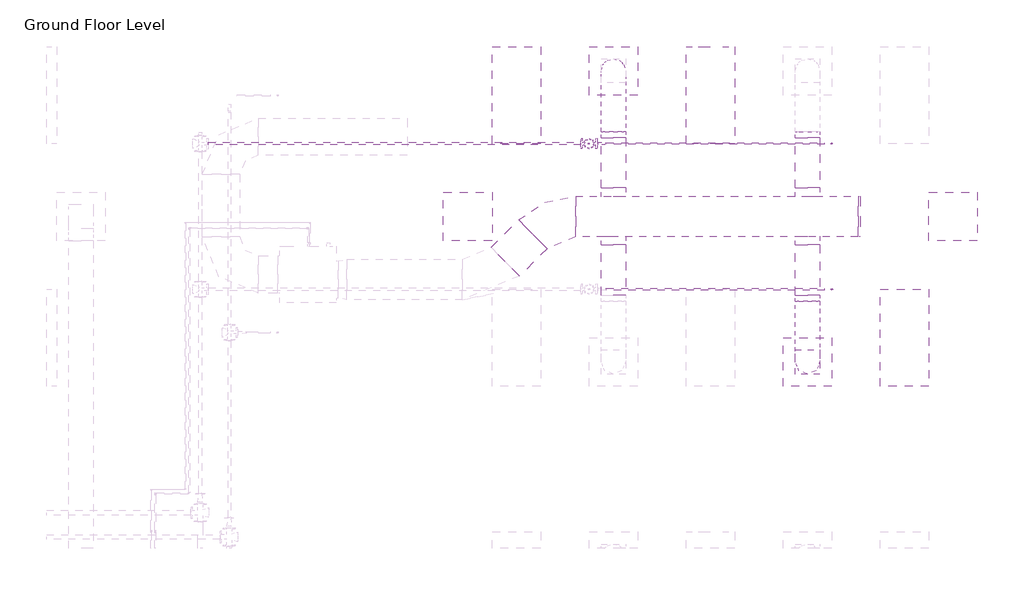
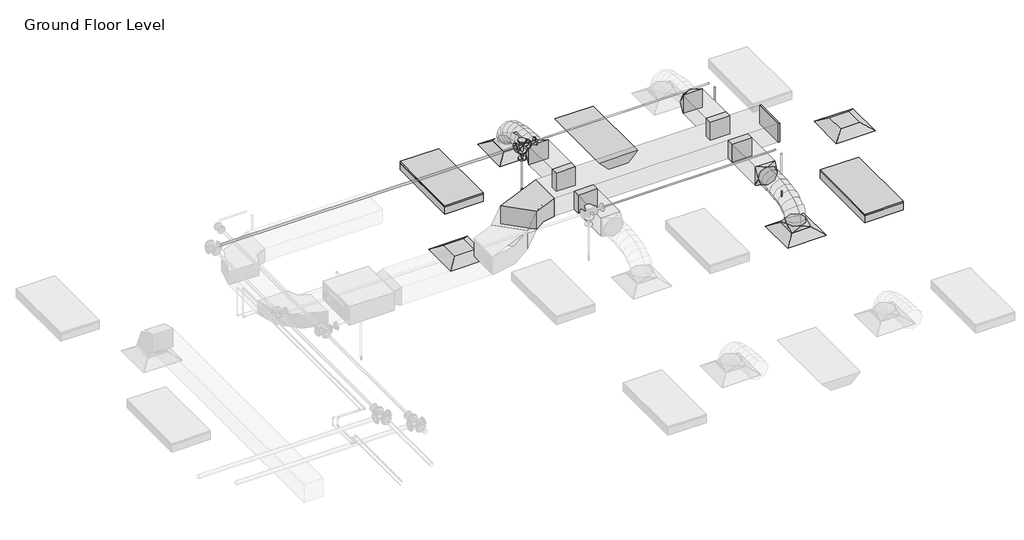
# One storey, part 73 of 74: 10 duct fittings, 8 duct segments, 6 pipe segments, 4 air terminals, 3 fire suppression terminals, 3 light fixtures, 3 pipe fittings.
"""IFC4 building model written with IfcOpenShell, lengths in millimetres."""

from ifc_helpers import new_model, si_unit, point, frame, frame_2d, origin, place, context, project, spatial, polyline, circle_curve, ellipse_curve, trimmed, segment, composite_curve, outline, extrude, transform, mapped, element, save
from ifc_brep_helpers import plane_surface, cylinder_surface, advanced_brep
from components import m_return_diffuser_600_x_600_face_300_x_300_connection_ff221211, m_rectangular_elbow_radius_1_5_w_acc56c25, m_rectangular_endcap_standard_72d4d00d, m_rectangular_takeoff_standard_cb0ccb98, m_rectangular_takeoff_standard_2be5eba1, m_rectangular_to_round_transition_angle_45_degree_641efff0, m_sprinkler_dry_pendent_hosted_15_mm_dry_pendent_9bda8e11, m_emergency_recessed_lighting_fixture_600x1200_277_5b10b25d, m_troffer_light_parabolic_rectangular1_0600x1200mm_4_lamp_86473d4a, m_reducer_flanged_cs_class_150_standard_ccf252ad, m_tee_round_base_flanged_cs_class_150_standard_7e5987a1

model = new_model("IFC4")

# Units and contexts
model_context = context("Model", 3, world=origin())
ifc_project = project(units=[si_unit("LENGTHUNIT", "METRE", prefix="MILLI")], contexts=[model_context])

# Site, building, storey
site = spatial("IfcSite", under=ifc_project)
building = spatial("IfcBuilding", under=site)
storey = spatial("IfcBuildingStorey", under=building, Name="Ground Floor Level", Elevation=900.0)

# Air terminals
placement = place(None, origin())
m_return_diffuser_600_x_600_face_300_x_300_connection_shape = m_return_diffuser_600_x_600_face_300_x_300_connection_ff221211(model_context)
element("IfcAirTerminal", 1, ObjectType="M_Return Diffuser : 600 x 600 Face 300 x 300 Connection", at=placement, inside=storey, context=model_context, shape_type="MappedRepresentation", body=[
    mapped(m_return_diffuser_600_x_600_face_300_x_300_connection_shape, transform((8942.7672395, 18735.2153534, 3650.0), x_axis=(1.0, 0.0, 0.0), y_axis=(0.0, 1.0, 0.0), z_axis=(0.0, 0.0, 1.0))),
])
element("IfcAirTerminal", 2, ObjectType="M_Return Diffuser : 600 x 600 Face 300 x 300 Connection", at=placement, inside=storey, context=model_context, shape_type="MappedRepresentation", body=[
    mapped(m_return_diffuser_600_x_600_face_300_x_300_connection_shape, transform((14942.7672395, 18735.2153534, 3650.0), x_axis=(1.0, 0.0, 0.0), y_axis=(0.0, 1.0, 0.0), z_axis=(0.0, 0.0, 1.0))),
])
element("IfcAirTerminal", 3, ObjectType="M_Supply Diffuser : 600 x 600 Face 300 x 300 Connection", at=placement, inside=storey, context=model_context, shape_type="MappedRepresentation", body=[
    mapped(m_return_diffuser_600_x_600_face_300_x_300_connection_shape, transform((10742.7672395, 20535.2153534, 3650.0), x_axis=(1.0, 0.0, 0.0), y_axis=(0.0, 1.0, 0.0), z_axis=(0.0, 0.0, 1.0))),
])
element("IfcAirTerminal", 4, ObjectType="M_Supply Diffuser : 600 x 600 Face 300 x 300 Connection", at=placement, inside=storey, context=model_context, shape_type="MappedRepresentation", body=[
    mapped(m_return_diffuser_600_x_600_face_300_x_300_connection_shape, transform((13142.7672395, 16935.2153534, 3650.0), x_axis=(1.0, 0.0, 0.0), y_axis=(0.0, 1.0, 0.0), z_axis=(0.0, 0.0, 1.0))),
])

# Duct fittings
m_rectangular_elbow_radius_1_5_w_shape = m_rectangular_elbow_radius_1_5_w_acc56c25(model_context)
element("IfcDuctFitting", 5, ObjectType="M_Rectangular Elbow - Radius : 1.5 W", at=placement, inside=storey, context=model_context, shape_type="MappedRepresentation", body=[
    mapped(m_rectangular_elbow_radius_1_5_w_shape, transform((9966.7301365, 18735.2153534, 4100.0), x_axis=(-1.0, 0.0, 0.0), y_axis=(0.0, -0.9999999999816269, 6.061864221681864e-06), z_axis=(0.0, 6.061864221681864e-06, 0.9999999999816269))),
])
m_rectangular_endcap_standard_shape = m_rectangular_endcap_standard_72d4d00d(model_context)
element("IfcDuctFitting", 6, ObjectType="M_Rectangular Endcap : Standard", at=placement, inside=storey, context=model_context, shape_type="MappedRepresentation", body=[
    mapped(m_rectangular_endcap_standard_shape, transform((13766.7301365, 18735.2153534, 4100.0), x_axis=(1.0, 0.0, 0.0), y_axis=(0.0, 1.0, 0.0), z_axis=(0.0, 0.0, 1.0))),
])
m_rectangular_takeoff_standard_shape = m_rectangular_takeoff_standard_cb0ccb98(model_context)
element("IfcDuctFitting", 7, ObjectType="M_Rectangular Takeoff : Standard", at=placement, inside=storey, context=model_context, shape_type="MappedRepresentation", body=[
    mapped(m_rectangular_takeoff_standard_shape, transform((10742.7672395, 18985.2153534, 4100.0), x_axis=(0.0, 1.0, 0.0), y_axis=(1.0, 0.0, 0.0), z_axis=(0.0, 0.0, -1.0))),
])
element("IfcDuctFitting", 8, ObjectType="M_Rectangular Takeoff : Standard", at=placement, inside=storey, context=model_context, shape_type="MappedRepresentation", body=[
    mapped(m_rectangular_takeoff_standard_shape, transform((13142.7672395, 18985.2153534, 4100.0), x_axis=(0.0, 1.0, 0.0), y_axis=(1.0, 0.0, 0.0), z_axis=(0.0, 0.0, -1.0))),
])
m_rectangular_takeoff_standard_2_shape = m_rectangular_takeoff_standard_2be5eba1(model_context)
element("IfcDuctFitting", 9, ObjectType="M_Rectangular Takeoff : Standard", at=placement, inside=storey, context=model_context, shape_type="MappedRepresentation", body=[
    mapped(m_rectangular_takeoff_standard_2_shape, transform((13142.7672395, 18485.2153534, 4100.0), x_axis=(0.0, -1.0, 0.0), y_axis=(-1.0, 0.0, 0.0), z_axis=(0.0, 0.0, -1.0))),
])
element("IfcDuctFitting", 10, ObjectType="M_Rectangular Takeoff : Standard", at=placement, inside=storey, context=model_context, shape_type="MappedRepresentation", body=[
    mapped(m_rectangular_takeoff_standard_2_shape, transform((10742.7672395, 18485.2153534, 4100.0), x_axis=(0.0, -1.0, 0.0), y_axis=(-1.0, 0.0, 0.0), z_axis=(0.0, 0.0, -1.0))),
])
m_rectangular_to_round_transition_angle_45_degree_shape = m_rectangular_to_round_transition_angle_45_degree_641efff0(model_context)
element("IfcDuctFitting", 11, ObjectType="M_Rectangular to Round Transition - Angle : 45 Degree", at=placement, inside=storey, context=model_context, shape_type="MappedRepresentation", body=[
    mapped(m_rectangular_to_round_transition_angle_45_degree_shape, transform((10742.7672395, 19707.8794221, 4100.0), x_axis=(0.0, 1.0, 0.0), y_axis=(-1.0, 0.0, 0.0), z_axis=(0.0, 0.0, 1.0))),
])
element("IfcDuctFitting", 12, ObjectType="M_Rectangular to Round Transition - Angle : 45 Degree", at=placement, inside=storey, context=model_context, shape_type="MappedRepresentation", body=[
    mapped(m_rectangular_to_round_transition_angle_45_degree_shape, transform((13142.7672395, 19707.8794221, 4100.0), x_axis=(0.0, 1.0, 0.0), y_axis=(-1.0, 0.0, 0.0), z_axis=(0.0, 0.0, 1.0))),
])
element("IfcDuctFitting", 13, ObjectType="M_Rectangular to Round Transition - Angle : 45 Degree", at=placement, inside=storey, context=model_context, shape_type="MappedRepresentation", body=[
    mapped(m_rectangular_to_round_transition_angle_45_degree_shape, transform((13142.7672395, 16935.2153534, 3751.6), x_axis=(0.0, 0.0, 1.0), y_axis=(-1.0, 0.0, 0.0), z_axis=(0.0, -1.0, 0.0))),
])
element("IfcDuctFitting", 14, ObjectType="M_Rectangular to Round Transition - Angle : 45 Degree", at=placement, inside=storey, context=model_context, shape_type="MappedRepresentation", body=[
    mapped(m_rectangular_to_round_transition_angle_45_degree_shape, transform((13142.7672395, 17762.5512847, 4100.0), x_axis=(0.0, -1.0, 0.0), y_axis=(1.0, 0.0, 0.0), z_axis=(0.0, 0.0, 1.0))),
])

# Duct segments
element("IfcDuctSegment", 15, ObjectType="Flex - Round", at=placement, inside=storey, context=model_context, shape_type="AdvancedBrep", body=[
    advanced_brep(
    [(10892.7672395, 20535.2153534, 3826.6), (10742.7672395, 20385.2153534, 3826.6), (10592.7672395, 20535.2153534, 3826.6), (10742.7672395, 20685.2153534, 3826.6), (10892.7672395, 20535.2153534, 3857.9377114), (10742.7672395, 20385.2153534, 3832.2944892), (10592.7672395, 20535.2153534, 3857.9377114), (10742.7672395, 20685.2153534, 3883.5809337), (10892.7672395, 20518.1994208, 3906.2505728), (10742.7672395, 20384.4614419, 3834.435049), (10592.7672395, 20518.1994208, 3906.2505728), (10742.7672395, 20651.9373998, 3978.0660967), (10892.7672395, 20471.0155405, 3968.7113131), (10742.7672395, 20366.8096412, 3857.8020236), (10592.7672395, 20471.0155405, 3968.7113131), (10742.7672395, 20575.2214397, 4079.6206026), (10892.7672395, 20399.4595883, 4016.0700639), (10742.7672395, 20330.5255327, 3881.8163788), (10592.7672395, 20399.4595883, 4016.0700639), (10742.7672395, 20468.3936439, 4150.3237489), (10892.7672395, 20309.3274403, 4050.4146682), (10742.7672395, 20265.7666771, 3906.4925606), (10592.7672395, 20309.3274403, 4050.4146682), (10742.7672395, 20352.8882035, 4194.3367758), (10892.7672395, 20206.4149725, 4073.8329691), (10742.7672395, 20179.8540485, 3926.0424542), (10592.7672395, 20206.4149725, 4073.8329691), (10742.7672395, 20232.9758965, 4221.6234841), (10892.7672395, 20096.5180607, 4088.4128097), (10742.7672395, 20081.3671584, 3939.1085462), (10592.7672395, 20096.5180607, 4088.4128097), (10742.7672395, 20111.6689631, 4237.7170733), (10892.7672395, 19985.4325811, 4096.242033), (10742.7672395, 19977.9272529, 3946.398915), (10592.7672395, 19985.4325811, 4096.242033), (10742.7672395, 19992.9379093, 4246.085151), (10892.7672395, 19878.9544096, 4099.4084821), (10742.7672395, 19876.2629165, 3949.4222102), (10592.7672395, 19878.9544096, 4099.4084821), (10742.7672395, 19881.6459027, 4249.394754), (10892.7672395, 19782.8794221, 4100.0), (10742.7672395, 19783.8029299, 4249.9971571), (10592.7672395, 19782.8794221, 4100.0), (10742.7672395, 19781.9559143, 3950.0028429)],
    [
        (0, 1, circle_curve(frame((10742.7672395, 20535.2153534, 3826.6), z_axis=(0.0, 0.0, -1.0), x_axis=(1.0, 0.0, 0.0)), 150.0)),
        (1, 2, circle_curve(frame((10742.7672395, 20535.2153534, 3826.6), z_axis=(0.0, 0.0, -1.0), x_axis=(1.0, 0.0, 0.0)), 150.0)),
        (2, 3, circle_curve(frame((10742.7672395, 20535.2153534, 3826.6), z_axis=(0.0, 0.0, -1.0), x_axis=(1.0, 0.0, 0.0)), 150.0)),
        (3, 0, circle_curve(frame((10742.7672395, 20535.2153534, 3826.6), z_axis=(0.0, 0.0, -1.0), x_axis=(1.0, 0.0, 0.0)), 150.0)),
        (0, 4),
        (4, 5, ellipse_curve(frame((10742.7672395, 20535.2153534, 3857.9377114), z_axis=(0.0, 0.16851014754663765, -0.9856999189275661), x_axis=(0.0, -0.985699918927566, -0.1685101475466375)), 152.176131, 150.0)),
        (5, 1),
        (5, 6, ellipse_curve(frame((10742.7672395, 20535.2153534, 3857.9377114), z_axis=(0.0, 0.16851014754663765, -0.9856999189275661), x_axis=(0.0, -0.985699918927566, -0.1685101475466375)), 152.176131, 150.0)),
        (6, 2),
        (6, 7, ellipse_curve(frame((10742.7672395, 20535.2153534, 3857.9377114), z_axis=(0.0, 0.16851014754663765, -0.9856999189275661), x_axis=(0.0, -0.985699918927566, -0.1685101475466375)), 152.176131, 150.0)),
        (7, 3),
        (7, 4, ellipse_curve(frame((10742.7672395, 20535.2153534, 3857.9377114), z_axis=(0.0, 0.16851014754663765, -0.9856999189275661), x_axis=(0.0, -0.985699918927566, -0.1685101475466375)), 152.176131, 150.0)),
        (4, 8),
        (8, 9, ellipse_curve(frame((10742.7672395, 20518.1994208, 3906.2505728), z_axis=(0.0, 0.4730922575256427, -0.881012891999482), x_axis=(0.0, -0.8810128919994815, -0.4730922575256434)), 151.8002519, 150.0)),
        (9, 5),
        (9, 10, ellipse_curve(frame((10742.7672395, 20518.1994208, 3906.2505728), z_axis=(0.0, 0.4730922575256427, -0.881012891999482), x_axis=(0.0, -0.8810128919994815, -0.4730922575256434)), 151.8002519, 150.0)),
        (10, 6),
        (10, 11, ellipse_curve(frame((10742.7672395, 20518.1994208, 3906.2505728), z_axis=(0.0, 0.4730922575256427, -0.881012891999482), x_axis=(0.0, -0.8810128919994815, -0.4730922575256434)), 151.8002519, 150.0)),
        (11, 7),
        (11, 8, ellipse_curve(frame((10742.7672395, 20518.1994208, 3906.2505728), z_axis=(0.0, 0.4730922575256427, -0.881012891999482), x_axis=(0.0, -0.8810128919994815, -0.4730922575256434)), 151.8002519, 150.0)),
        (8, 12),
        (12, 13, ellipse_curve(frame((10742.7672395, 20471.0155405, 3968.7113131), z_axis=(0.0, 0.7287877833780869, -0.68473963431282), x_axis=(0.0, -0.6847396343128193, -0.7287877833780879)), 152.1832446, 150.0)),
        (13, 9),
        (13, 14, ellipse_curve(frame((10742.7672395, 20471.0155405, 3968.7113131), z_axis=(0.0, 0.7287877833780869, -0.68473963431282), x_axis=(0.0, -0.6847396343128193, -0.7287877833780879)), 152.1832446, 150.0)),
        (14, 10),
        (14, 15, ellipse_curve(frame((10742.7672395, 20471.0155405, 3968.7113131), z_axis=(0.0, 0.7287877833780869, -0.68473963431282), x_axis=(0.0, -0.6847396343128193, -0.7287877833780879)), 152.1832446, 150.0)),
        (15, 11),
        (15, 12, ellipse_curve(frame((10742.7672395, 20471.0155405, 3968.7113131), z_axis=(0.0, 0.7287877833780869, -0.68473963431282), x_axis=(0.0, -0.6847396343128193, -0.7287877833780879)), 152.1832446, 150.0)),
        (12, 16),
        (16, 17, ellipse_curve(frame((10742.7672395, 20399.4595883, 4016.0700639), z_axis=(0.0, 0.8895859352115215, -0.45676784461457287), x_axis=(0.0, -0.45676784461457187, -0.889585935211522)), 150.91705, 150.0)),
        (17, 13),
        (17, 18, ellipse_curve(frame((10742.7672395, 20399.4595883, 4016.0700639), z_axis=(0.0, 0.8895859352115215, -0.45676784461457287), x_axis=(0.0, -0.45676784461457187, -0.889585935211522)), 150.91705, 150.0)),
        (18, 14),
        (18, 19, ellipse_curve(frame((10742.7672395, 20399.4595883, 4016.0700639), z_axis=(0.0, 0.8895859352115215, -0.45676784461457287), x_axis=(0.0, -0.45676784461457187, -0.889585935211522)), 150.91705, 150.0)),
        (19, 15),
        (19, 16, ellipse_curve(frame((10742.7672395, 20399.4595883, 4016.0700639), z_axis=(0.0, 0.8895859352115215, -0.45676784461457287), x_axis=(0.0, -0.45676784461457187, -0.889585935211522)), 150.91705, 150.0)),
        (16, 20),
        (20, 21, ellipse_curve(frame((10742.7672395, 20309.3274403, 4050.4146682), z_axis=(0.0, 0.9571203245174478, -0.2896906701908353), x_axis=(0.0, -0.28969067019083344, -0.9571203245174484)), 150.369921, 150.0)),
        (21, 17),
        (21, 22, ellipse_curve(frame((10742.7672395, 20309.3274403, 4050.4146682), z_axis=(0.0, 0.9571203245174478, -0.2896906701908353), x_axis=(0.0, -0.28969067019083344, -0.9571203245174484)), 150.369921, 150.0)),
        (22, 18),
        (22, 23, ellipse_curve(frame((10742.7672395, 20309.3274403, 4050.4146682), z_axis=(0.0, 0.9571203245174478, -0.2896906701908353), x_axis=(0.0, -0.28969067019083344, -0.9571203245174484)), 150.369921, 150.0)),
        (23, 19),
        (23, 20, ellipse_curve(frame((10742.7672395, 20309.3274403, 4050.4146682), z_axis=(0.0, 0.9571203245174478, -0.2896906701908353), x_axis=(0.0, -0.28969067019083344, -0.9571203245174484)), 150.369921, 150.0)),
        (20, 24),
        (24, 25, ellipse_curve(frame((10742.7672395, 20206.4149725, 4073.8329691), z_axis=(0.0, 0.9842313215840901, -0.17688613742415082), x_axis=(0.0, -0.17688613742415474, -0.9842313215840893)), 150.1583131, 150.0)),
        (25, 21),
        (25, 26, ellipse_curve(frame((10742.7672395, 20206.4149725, 4073.8329691), z_axis=(0.0, 0.9842313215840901, -0.17688613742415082), x_axis=(0.0, -0.17688613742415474, -0.9842313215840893)), 150.1583131, 150.0)),
        (26, 22),
        (26, 27, ellipse_curve(frame((10742.7672395, 20206.4149725, 4073.8329691), z_axis=(0.0, 0.9842313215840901, -0.17688613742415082), x_axis=(0.0, -0.17688613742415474, -0.9842313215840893)), 150.1583131, 150.0)),
        (27, 23),
        (27, 24, ellipse_curve(frame((10742.7672395, 20206.4149725, 4073.8329691), z_axis=(0.0, 0.9842313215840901, -0.17688613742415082), x_axis=(0.0, -0.17688613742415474, -0.9842313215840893)), 150.1583131, 150.0)),
        (24, 28),
        (28, 29, ellipse_curve(frame((10742.7672395, 20096.5180607, 4088.4128097), z_axis=(0.0, 0.9948906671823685, -0.10095821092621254), x_axis=(0.0, -0.10095821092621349, -0.9948906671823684)), 150.0710264, 150.0)),
        (29, 25),
        (29, 30, ellipse_curve(frame((10742.7672395, 20096.5180607, 4088.4128097), z_axis=(0.0, 0.9948906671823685, -0.10095821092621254), x_axis=(0.0, -0.10095821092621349, -0.9948906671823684)), 150.0710264, 150.0)),
        (30, 26),
        (30, 31, ellipse_curve(frame((10742.7672395, 20096.5180607, 4088.4128097), z_axis=(0.0, 0.9948906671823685, -0.10095821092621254), x_axis=(0.0, -0.10095821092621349, -0.9948906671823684)), 150.0710264, 150.0)),
        (31, 27),
        (31, 28, ellipse_curve(frame((10742.7672395, 20096.5180607, 4088.4128097), z_axis=(0.0, 0.9948906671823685, -0.10095821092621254), x_axis=(0.0, -0.10095821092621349, -0.9948906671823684)), 150.0710264, 150.0)),
        (28, 32),
        (32, 33, ellipse_curve(frame((10742.7672395, 19985.4325811, 4096.242033), z_axis=(0.0, 0.9987479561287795, -0.05002519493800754), x_axis=(0.0, -0.05002519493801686, -0.9987479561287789)), 150.0309634, 150.0)),
        (33, 29),
        (33, 34, ellipse_curve(frame((10742.7672395, 19985.4325811, 4096.242033), z_axis=(0.0, 0.9987479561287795, -0.05002519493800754), x_axis=(0.0, -0.05002519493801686, -0.9987479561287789)), 150.0309634, 150.0)),
        (34, 30),
        (34, 35, ellipse_curve(frame((10742.7672395, 19985.4325811, 4096.242033), z_axis=(0.0, 0.9987479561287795, -0.05002519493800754), x_axis=(0.0, -0.05002519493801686, -0.9987479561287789)), 150.0309634, 150.0)),
        (35, 31),
        (35, 32, ellipse_curve(frame((10742.7672395, 19985.4325811, 4096.242033), z_axis=(0.0, 0.9987479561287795, -0.05002519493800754), x_axis=(0.0, -0.05002519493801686, -0.9987479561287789)), 150.0309634, 150.0)),
        (32, 36),
        (36, 37, ellipse_curve(frame((10742.7672395, 19878.9544096, 4099.4084821), z_axis=(0.0, 0.9998390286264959, -0.017942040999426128), x_axis=(0.0, -0.017942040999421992, -0.999839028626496)), 150.0104193, 150.0)),
        (37, 33),
        (37, 38, ellipse_curve(frame((10742.7672395, 19878.9544096, 4099.4084821), z_axis=(0.0, 0.9998390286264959, -0.017942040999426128), x_axis=(0.0, -0.017942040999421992, -0.999839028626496)), 150.0104193, 150.0)),
        (38, 34),
        (38, 39, ellipse_curve(frame((10742.7672395, 19878.9544096, 4099.4084821), z_axis=(0.0, 0.9998390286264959, -0.017942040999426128), x_axis=(0.0, -0.017942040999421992, -0.999839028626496)), 150.0104193, 150.0)),
        (39, 35),
        (39, 36, ellipse_curve(frame((10742.7672395, 19878.9544096, 4099.4084821), z_axis=(0.0, 0.9998390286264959, -0.017942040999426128), x_axis=(0.0, -0.017942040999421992, -0.999839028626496)), 150.0104193, 150.0)),
        (40, 41, circle_curve(frame((10742.7672395, 19782.8794221, 4100.0), z_axis=(0.0, -0.9999810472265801, 0.006156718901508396), x_axis=(1.0, 0.0, 0.0)), 150.0)),
        (41, 42, circle_curve(frame((10742.7672395, 19782.8794221, 4100.0), z_axis=(0.0, -0.9999810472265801, 0.006156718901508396), x_axis=(1.0, 0.0, 0.0)), 150.0)),
        (42, 43, circle_curve(frame((10742.7672395, 19782.8794221, 4100.0), z_axis=(0.0, -0.9999810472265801, 0.006156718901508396), x_axis=(1.0, 0.0, 0.0)), 150.0)),
        (43, 40, circle_curve(frame((10742.7672395, 19782.8794221, 4100.0), z_axis=(0.0, -0.9999810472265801, 0.006156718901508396), x_axis=(1.0, 0.0, 0.0)), 150.0)),
        (36, 40),
        (43, 37),
        (42, 38),
        (41, 39),
    ],
    [
        plane_surface(frame((10742.7672395, 20385.2153534, 3826.6), z_axis=(0.0, 0.0, -1.0), x_axis=(1.0, 0.0, 0.0))),
        cylinder_surface(frame((10742.7672395, 20535.2153534, 3826.6), z_axis=(0.0, 0.0, -1.0), x_axis=(1.0, 0.0, 0.0)), 150.0),
        cylinder_surface(frame((10742.7672395, 20535.2153534, 3857.9377114), z_axis=(0.0, 0.33220087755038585, -0.9432086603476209), x_axis=(1.0, 0.0, 0.0)), 150.0),
        cylinder_surface(frame((10742.7672395, 20518.1994208, 3906.2505728), z_axis=(0.0, 0.6027625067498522, -0.7979206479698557), x_axis=(1.0, 0.0, 0.0)), 150.0),
        cylinder_surface(frame((10742.7672395, 20471.0155405, 3968.7113131), z_axis=(0.0, 0.833902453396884, -0.5519118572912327), x_axis=(1.0, 0.0, 0.0)), 150.0),
        cylinder_surface(frame((10742.7672395, 20399.4595883, 4016.0700639), z_axis=(0.0, 0.9344582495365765, -0.3560727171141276), x_axis=(1.0, 0.0, 0.0)), 150.0),
        cylinder_surface(frame((10742.7672395, 20309.3274403, 4050.4146682), z_axis=(0.0, 0.9750732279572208, -0.2218833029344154), x_axis=(1.0, 0.0, 0.0)), 150.0),
        cylinder_surface(frame((10742.7672395, 20206.4149725, 4073.8329691), z_axis=(0.0, 0.991314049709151, -0.13151598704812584), x_axis=(1.0, 0.0, 0.0)), 150.0),
        cylinder_surface(frame((10742.7672395, 20096.5180607, 4088.4128097), z_axis=(0.0, 0.9975255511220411, -0.07030487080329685), x_axis=(1.0, 0.0, 0.0)), 150.0),
        cylinder_surface(frame((10742.7672395, 19985.4325811, 4096.242033), z_axis=(0.0, 0.9995581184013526, -0.02972487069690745), x_axis=(1.0, 0.0, 0.0)), 150.0),
        plane_surface(frame((10742.7672395, 19781.9559143, 3950.0028429), z_axis=(0.0, -0.9999810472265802, 0.006156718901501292), x_axis=(1.0, 0.0, 0.0))),
        cylinder_surface(frame((10742.7672395, 19878.9544096, 4099.4084821), z_axis=(0.0, 0.9999810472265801, -0.006156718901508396), x_axis=(1.0, 0.0, 0.0)), 150.0),
    ],
    [
        (0, [[1, 2, 3, 4]]),
        (1, [[-1, 5, 6, 7]]),
        (1, [[-2, -7, 8, 9]]),
        (1, [[-3, -9, 10, 11]]),
        (1, [[-4, -11, 12, -5]]),
        (2, [[-6, 13, 14, 15]]),
        (2, [[-8, -15, 16, 17]]),
        (2, [[-10, -17, 18, 19]]),
        (2, [[-12, -19, 20, -13]]),
        (3, [[-14, 21, 22, 23]]),
        (3, [[-16, -23, 24, 25]]),
        (3, [[-18, -25, 26, 27]]),
        (3, [[-20, -27, 28, -21]]),
        (4, [[-22, 29, 30, 31]]),
        (4, [[-24, -31, 32, 33]]),
        (4, [[-26, -33, 34, 35]]),
        (4, [[-28, -35, 36, -29]]),
        (5, [[-30, 37, 38, 39]]),
        (5, [[-32, -39, 40, 41]]),
        (5, [[-34, -41, 42, 43]]),
        (5, [[-36, -43, 44, -37]]),
        (6, [[-38, 45, 46, 47]]),
        (6, [[-40, -47, 48, 49]]),
        (6, [[-42, -49, 50, 51]]),
        (6, [[-44, -51, 52, -45]]),
        (7, [[-46, 53, 54, 55]]),
        (7, [[-48, -55, 56, 57]]),
        (7, [[-50, -57, 58, 59]]),
        (7, [[-52, -59, 60, -53]]),
        (8, [[-54, 61, 62, 63]]),
        (8, [[-56, -63, 64, 65]]),
        (8, [[-58, -65, 66, 67]]),
        (8, [[-60, -67, 68, -61]]),
        (9, [[-62, 69, 70, 71]]),
        (9, [[-64, -71, 72, 73]]),
        (9, [[-66, -73, 74, 75]]),
        (9, [[-68, -75, 76, -69]]),
        (10, [[77, 78, 79, 80]]),
        (11, [[-70, 81, -80, 82]]),
        (11, [[-72, -82, -79, 83]]),
        (11, [[-74, -83, -78, 84]]),
        (11, [[-76, -84, -77, -81]]),
    ],
),
])
element("IfcDuctSegment", 16, ObjectType="Flex - Round", at=placement, inside=storey, context=model_context, shape_type="AdvancedBrep", body=[
    advanced_brep(
    [(13292.7672395, 16935.2153534, 3826.6), (13142.7672395, 16785.2153534, 3826.6), (12992.7672395, 16935.2153534, 3826.6), (13142.7672395, 17085.2153534, 3826.6), (13292.7672395, 16935.2153534, 3857.9377114), (13142.7672395, 16785.2153534, 3883.5809337), (12992.7672395, 16935.2153534, 3857.9377114), (13142.7672395, 17085.2153534, 3832.2944892), (13292.7672395, 16952.2312859, 3906.2505728), (13142.7672395, 16818.493307, 3978.0660967), (12992.7672395, 16952.2312859, 3906.2505728), (13142.7672395, 17085.9692649, 3834.435049), (13292.7672395, 16999.4151663, 3968.7113131), (13142.7672395, 16895.209267, 4079.6206026), (12992.7672395, 16999.4151663, 3968.7113131), (13142.7672395, 17103.6210655, 3857.8020236), (13292.7672395, 17070.9711184, 4016.0700639), (13142.7672395, 17002.0370628, 4150.3237489), (12992.7672395, 17070.9711184, 4016.0700639), (13142.7672395, 17139.9051741, 3881.8163788), (13292.7672395, 17161.1032664, 4050.4146682), (13142.7672395, 17117.5425033, 4194.3367758), (12992.7672395, 17161.1032664, 4050.4146682), (13142.7672395, 17204.6640296, 3906.4925606), (13292.7672395, 17264.0157343, 4073.8329691), (13142.7672395, 17237.4548103, 4221.6234841), (12992.7672395, 17264.0157343, 4073.8329691), (13142.7672395, 17290.5766583, 3926.0424542), (13292.7672395, 17373.912646, 4088.4128097), (13142.7672395, 17358.7617437, 4237.7170733), (12992.7672395, 17373.912646, 4088.4128097), (13142.7672395, 17389.0635483, 3939.1085462), (13292.7672395, 17484.9981256, 4096.242033), (13142.7672395, 17477.4927975, 4246.085151), (12992.7672395, 17484.9981256, 4096.242033), (13142.7672395, 17492.5034538, 3946.398915), (13292.7672395, 17591.4762972, 4099.4084821), (13142.7672395, 17588.7848041, 4249.394754), (12992.7672395, 17591.4762972, 4099.4084821), (13142.7672395, 17594.1677903, 3949.4222102), (13292.7672395, 17687.5512847, 4100.0), (13142.7672395, 17688.4747925, 3950.0028429), (12992.7672395, 17687.5512847, 4100.0), (13142.7672395, 17686.6277768, 4249.9971571)],
    [
        (0, 1, circle_curve(frame((13142.7672395, 16935.2153534, 3826.6), z_axis=(0.0, 0.0, -1.0), x_axis=(1.0, 0.0, 0.0)), 150.0)),
        (1, 2, circle_curve(frame((13142.7672395, 16935.2153534, 3826.6), z_axis=(0.0, 0.0, -1.0), x_axis=(1.0, 0.0, 0.0)), 150.0)),
        (2, 3, circle_curve(frame((13142.7672395, 16935.2153534, 3826.6), z_axis=(0.0, 0.0, -1.0), x_axis=(1.0, 0.0, 0.0)), 150.0)),
        (3, 0, circle_curve(frame((13142.7672395, 16935.2153534, 3826.6), z_axis=(0.0, 0.0, -1.0), x_axis=(1.0, 0.0, 0.0)), 150.0)),
        (0, 4),
        (4, 5, ellipse_curve(frame((13142.7672395, 16935.2153534, 3857.9377114), z_axis=(0.0, -0.16851014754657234, -0.9856999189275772), x_axis=(0.0, 0.9856999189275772, -0.1685101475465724)), 152.176131, 150.0)),
        (5, 1),
        (5, 6, ellipse_curve(frame((13142.7672395, 16935.2153534, 3857.9377114), z_axis=(0.0, -0.16851014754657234, -0.9856999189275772), x_axis=(0.0, 0.9856999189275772, -0.1685101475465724)), 152.176131, 150.0)),
        (6, 2),
        (6, 7, ellipse_curve(frame((13142.7672395, 16935.2153534, 3857.9377114), z_axis=(0.0, -0.16851014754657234, -0.9856999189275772), x_axis=(0.0, 0.9856999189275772, -0.1685101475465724)), 152.176131, 150.0)),
        (7, 3),
        (7, 4, ellipse_curve(frame((13142.7672395, 16935.2153534, 3857.9377114), z_axis=(0.0, -0.16851014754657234, -0.9856999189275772), x_axis=(0.0, 0.9856999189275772, -0.1685101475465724)), 152.176131, 150.0)),
        (4, 8),
        (8, 9, ellipse_curve(frame((13142.7672395, 16952.2312859, 3906.2505728), z_axis=(0.0, -0.4730922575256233, -0.8810128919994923), x_axis=(0.0, 0.8810128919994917, -0.47309225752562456)), 151.8002519, 150.0)),
        (9, 5),
        (9, 10, ellipse_curve(frame((13142.7672395, 16952.2312859, 3906.2505728), z_axis=(0.0, -0.4730922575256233, -0.8810128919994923), x_axis=(0.0, 0.8810128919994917, -0.47309225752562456)), 151.8002519, 150.0)),
        (10, 6),
        (10, 11, ellipse_curve(frame((13142.7672395, 16952.2312859, 3906.2505728), z_axis=(0.0, -0.4730922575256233, -0.8810128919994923), x_axis=(0.0, 0.8810128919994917, -0.47309225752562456)), 151.8002519, 150.0)),
        (11, 7),
        (11, 8, ellipse_curve(frame((13142.7672395, 16952.2312859, 3906.2505728), z_axis=(0.0, -0.4730922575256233, -0.8810128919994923), x_axis=(0.0, 0.8810128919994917, -0.47309225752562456)), 151.8002519, 150.0)),
        (8, 12),
        (12, 13, ellipse_curve(frame((13142.7672395, 16999.4151663, 3968.7113131), z_axis=(0.0, -0.7287877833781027, -0.684739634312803), x_axis=(0.0, 0.6847396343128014, -0.7287877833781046)), 152.1832446, 150.0)),
        (13, 9),
        (13, 14, ellipse_curve(frame((13142.7672395, 16999.4151663, 3968.7113131), z_axis=(0.0, -0.7287877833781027, -0.684739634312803), x_axis=(0.0, 0.6847396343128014, -0.7287877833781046)), 152.1832446, 150.0)),
        (14, 10),
        (14, 15, ellipse_curve(frame((13142.7672395, 16999.4151663, 3968.7113131), z_axis=(0.0, -0.7287877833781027, -0.684739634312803), x_axis=(0.0, 0.6847396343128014, -0.7287877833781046)), 152.1832446, 150.0)),
        (15, 11),
        (15, 12, ellipse_curve(frame((13142.7672395, 16999.4151663, 3968.7113131), z_axis=(0.0, -0.7287877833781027, -0.684739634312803), x_axis=(0.0, 0.6847396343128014, -0.7287877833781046)), 152.1832446, 150.0)),
        (12, 16),
        (16, 17, ellipse_curve(frame((13142.7672395, 17070.9711184, 4016.0700639), z_axis=(0.0, -0.8895859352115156, -0.45676784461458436), x_axis=(0.0, 0.45676784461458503, -0.8895859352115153)), 150.91705, 150.0)),
        (17, 13),
        (17, 18, ellipse_curve(frame((13142.7672395, 17070.9711184, 4016.0700639), z_axis=(0.0, -0.8895859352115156, -0.45676784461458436), x_axis=(0.0, 0.45676784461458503, -0.8895859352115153)), 150.91705, 150.0)),
        (18, 14),
        (18, 19, ellipse_curve(frame((13142.7672395, 17070.9711184, 4016.0700639), z_axis=(0.0, -0.8895859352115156, -0.45676784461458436), x_axis=(0.0, 0.45676784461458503, -0.8895859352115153)), 150.91705, 150.0)),
        (19, 15),
        (19, 16, ellipse_curve(frame((13142.7672395, 17070.9711184, 4016.0700639), z_axis=(0.0, -0.8895859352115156, -0.45676784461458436), x_axis=(0.0, 0.45676784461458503, -0.8895859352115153)), 150.91705, 150.0)),
        (16, 20),
        (20, 21, ellipse_curve(frame((13142.7672395, 17161.1032664, 4050.4146682), z_axis=(0.0, -0.9571203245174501, -0.2896906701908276), x_axis=(0.0, 0.28969067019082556, -0.9571203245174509)), 150.369921, 150.0)),
        (21, 17),
        (21, 22, ellipse_curve(frame((13142.7672395, 17161.1032664, 4050.4146682), z_axis=(0.0, -0.9571203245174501, -0.2896906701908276), x_axis=(0.0, 0.28969067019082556, -0.9571203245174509)), 150.369921, 150.0)),
        (22, 18),
        (22, 23, ellipse_curve(frame((13142.7672395, 17161.1032664, 4050.4146682), z_axis=(0.0, -0.9571203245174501, -0.2896906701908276), x_axis=(0.0, 0.28969067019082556, -0.9571203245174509)), 150.369921, 150.0)),
        (23, 19),
        (23, 20, ellipse_curve(frame((13142.7672395, 17161.1032664, 4050.4146682), z_axis=(0.0, -0.9571203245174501, -0.2896906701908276), x_axis=(0.0, 0.28969067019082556, -0.9571203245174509)), 150.369921, 150.0)),
        (20, 24),
        (24, 25, ellipse_curve(frame((13142.7672395, 17264.0157343, 4073.8329691), z_axis=(0.0, -0.9842313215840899, -0.176886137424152), x_axis=(0.0, 0.17688613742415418, -0.9842313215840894)), 150.1583131, 150.0)),
        (25, 21),
        (25, 26, ellipse_curve(frame((13142.7672395, 17264.0157343, 4073.8329691), z_axis=(0.0, -0.9842313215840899, -0.176886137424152), x_axis=(0.0, 0.17688613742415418, -0.9842313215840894)), 150.1583131, 150.0)),
        (26, 22),
        (26, 27, ellipse_curve(frame((13142.7672395, 17264.0157343, 4073.8329691), z_axis=(0.0, -0.9842313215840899, -0.176886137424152), x_axis=(0.0, 0.17688613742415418, -0.9842313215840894)), 150.1583131, 150.0)),
        (27, 23),
        (27, 24, ellipse_curve(frame((13142.7672395, 17264.0157343, 4073.8329691), z_axis=(0.0, -0.9842313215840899, -0.176886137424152), x_axis=(0.0, 0.17688613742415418, -0.9842313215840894)), 150.1583131, 150.0)),
        (24, 28),
        (28, 29, ellipse_curve(frame((13142.7672395, 17373.912646, 4088.4128097), z_axis=(0.0, -0.9948906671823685, -0.10095821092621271), x_axis=(0.0, 0.10095821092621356, -0.9948906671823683)), 150.0710264, 150.0)),
        (29, 25),
        (29, 30, ellipse_curve(frame((13142.7672395, 17373.912646, 4088.4128097), z_axis=(0.0, -0.9948906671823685, -0.10095821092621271), x_axis=(0.0, 0.10095821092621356, -0.9948906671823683)), 150.0710264, 150.0)),
        (30, 26),
        (30, 31, ellipse_curve(frame((13142.7672395, 17373.912646, 4088.4128097), z_axis=(0.0, -0.9948906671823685, -0.10095821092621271), x_axis=(0.0, 0.10095821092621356, -0.9948906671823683)), 150.0710264, 150.0)),
        (31, 27),
        (31, 28, ellipse_curve(frame((13142.7672395, 17373.912646, 4088.4128097), z_axis=(0.0, -0.9948906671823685, -0.10095821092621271), x_axis=(0.0, 0.10095821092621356, -0.9948906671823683)), 150.0710264, 150.0)),
        (28, 32),
        (32, 33, ellipse_curve(frame((13142.7672395, 17484.9981256, 4096.242033), z_axis=(0.0, -0.9987479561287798, -0.050025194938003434), x_axis=(0.0, 0.05002519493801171, -0.9987479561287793)), 150.0309634, 150.0)),
        (33, 29),
        (33, 34, ellipse_curve(frame((13142.7672395, 17484.9981256, 4096.242033), z_axis=(0.0, -0.9987479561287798, -0.050025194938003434), x_axis=(0.0, 0.05002519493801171, -0.9987479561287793)), 150.0309634, 150.0)),
        (34, 30),
        (34, 35, ellipse_curve(frame((13142.7672395, 17484.9981256, 4096.242033), z_axis=(0.0, -0.9987479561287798, -0.050025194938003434), x_axis=(0.0, 0.05002519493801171, -0.9987479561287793)), 150.0309634, 150.0)),
        (35, 31),
        (35, 32, ellipse_curve(frame((13142.7672395, 17484.9981256, 4096.242033), z_axis=(0.0, -0.9987479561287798, -0.050025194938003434), x_axis=(0.0, 0.05002519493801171, -0.9987479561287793)), 150.0309634, 150.0)),
        (32, 36),
        (36, 37, ellipse_curve(frame((13142.7672395, 17591.4762972, 4099.4084821), z_axis=(0.0, -0.9998390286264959, -0.01794204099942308), x_axis=(0.0, 0.017942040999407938, -0.9998390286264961)), 150.0104193, 150.0)),
        (37, 33),
        (37, 38, ellipse_curve(frame((13142.7672395, 17591.4762972, 4099.4084821), z_axis=(0.0, -0.9998390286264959, -0.01794204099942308), x_axis=(0.0, 0.017942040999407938, -0.9998390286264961)), 150.0104193, 150.0)),
        (38, 34),
        (38, 39, ellipse_curve(frame((13142.7672395, 17591.4762972, 4099.4084821), z_axis=(0.0, -0.9998390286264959, -0.01794204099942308), x_axis=(0.0, 0.017942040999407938, -0.9998390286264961)), 150.0104193, 150.0)),
        (39, 35),
        (39, 36, ellipse_curve(frame((13142.7672395, 17591.4762972, 4099.4084821), z_axis=(0.0, -0.9998390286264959, -0.01794204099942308), x_axis=(0.0, 0.017942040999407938, -0.9998390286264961)), 150.0104193, 150.0)),
        (40, 41, circle_curve(frame((13142.7672395, 17687.5512847, 4100.0), z_axis=(0.0, 0.9999810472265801, 0.006156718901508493), x_axis=(1.0, 0.0, 0.0)), 150.0)),
        (41, 42, circle_curve(frame((13142.7672395, 17687.5512847, 4100.0), z_axis=(0.0, 0.9999810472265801, 0.006156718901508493), x_axis=(1.0, 0.0, 0.0)), 150.0)),
        (42, 43, circle_curve(frame((13142.7672395, 17687.5512847, 4100.0), z_axis=(0.0, 0.9999810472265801, 0.006156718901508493), x_axis=(1.0, 0.0, 0.0)), 150.0)),
        (43, 40, circle_curve(frame((13142.7672395, 17687.5512847, 4100.0), z_axis=(0.0, 0.9999810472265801, 0.006156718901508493), x_axis=(1.0, 0.0, 0.0)), 150.0)),
        (36, 40),
        (43, 37),
        (42, 38),
        (41, 39),
    ],
    [
        plane_surface(frame((13142.7672395, 16785.2153534, 3826.6), z_axis=(0.0, 0.0, -1.0), x_axis=(1.0, 0.0, 0.0))),
        cylinder_surface(frame((13142.7672395, 16935.2153534, 3826.6), z_axis=(0.0, 0.0, -1.0), x_axis=(1.0, 0.0, 0.0)), 150.0),
        cylinder_surface(frame((13142.7672395, 16935.2153534, 3857.9377114), z_axis=(0.0, -0.3322008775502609, -0.9432086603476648), x_axis=(1.0, 0.0, 0.0)), 150.0),
        cylinder_surface(frame((13142.7672395, 16952.2312859, 3906.2505728), z_axis=(0.0, -0.6027625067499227, -0.7979206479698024), x_axis=(1.0, 0.0, 0.0)), 150.0),
        cylinder_surface(frame((13142.7672395, 16999.4151663, 3968.7113131), z_axis=(0.0, -0.8339024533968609, -0.5519118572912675), x_axis=(1.0, 0.0, 0.0)), 150.0),
        cylinder_surface(frame((13142.7672395, 17070.9711184, 4016.0700639), z_axis=(0.0, -0.9344582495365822, -0.35607271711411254), x_axis=(1.0, 0.0, 0.0)), 150.0),
        cylinder_surface(frame((13142.7672395, 17161.1032664, 4050.4146682), z_axis=(0.0, -0.9750732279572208, -0.22188330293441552), x_axis=(1.0, 0.0, 0.0)), 150.0),
        cylinder_surface(frame((13142.7672395, 17264.0157343, 4073.8329691), z_axis=(0.0, -0.9913140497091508, -0.13151598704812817), x_axis=(1.0, 0.0, 0.0)), 150.0),
        cylinder_surface(frame((13142.7672395, 17373.912646, 4088.4128097), z_axis=(0.0, -0.9975255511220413, -0.07030487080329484), x_axis=(1.0, 0.0, 0.0)), 150.0),
        cylinder_surface(frame((13142.7672395, 17484.9981256, 4096.242033), z_axis=(0.0, -0.9995581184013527, -0.029724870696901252), x_axis=(1.0, 0.0, 0.0)), 150.0),
        plane_surface(frame((13142.7672395, 17686.6277768, 4249.9971571), z_axis=(0.0, 0.9999810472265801, 0.0061567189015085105), x_axis=(1.0, 0.0, 0.0))),
        cylinder_surface(frame((13142.7672395, 17591.4762972, 4099.4084821), z_axis=(0.0, -0.9999810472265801, -0.006156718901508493), x_axis=(1.0, 0.0, 0.0)), 150.0),
    ],
    [
        (0, [[1, 2, 3, 4]]),
        (1, [[-1, 5, 6, 7]]),
        (1, [[-2, -7, 8, 9]]),
        (1, [[-3, -9, 10, 11]]),
        (1, [[-4, -11, 12, -5]]),
        (2, [[-6, 13, 14, 15]]),
        (2, [[-8, -15, 16, 17]]),
        (2, [[-10, -17, 18, 19]]),
        (2, [[-12, -19, 20, -13]]),
        (3, [[-14, 21, 22, 23]]),
        (3, [[-16, -23, 24, 25]]),
        (3, [[-18, -25, 26, 27]]),
        (3, [[-20, -27, 28, -21]]),
        (4, [[-22, 29, 30, 31]]),
        (4, [[-24, -31, 32, 33]]),
        (4, [[-26, -33, 34, 35]]),
        (4, [[-28, -35, 36, -29]]),
        (5, [[-30, 37, 38, 39]]),
        (5, [[-32, -39, 40, 41]]),
        (5, [[-34, -41, 42, 43]]),
        (5, [[-36, -43, 44, -37]]),
        (6, [[-38, 45, 46, 47]]),
        (6, [[-40, -47, 48, 49]]),
        (6, [[-42, -49, 50, 51]]),
        (6, [[-44, -51, 52, -45]]),
        (7, [[-46, 53, 54, 55]]),
        (7, [[-48, -55, 56, 57]]),
        (7, [[-50, -57, 58, 59]]),
        (7, [[-52, -59, 60, -53]]),
        (8, [[-54, 61, 62, 63]]),
        (8, [[-56, -63, 64, 65]]),
        (8, [[-58, -65, 66, 67]]),
        (8, [[-60, -67, 68, -61]]),
        (9, [[-62, 69, 70, 71]]),
        (9, [[-64, -71, 72, 73]]),
        (9, [[-66, -73, 74, 75]]),
        (9, [[-68, -75, 76, -69]]),
        (10, [[77, 78, 79, 80]]),
        (11, [[-70, 81, -80, 82]]),
        (11, [[-72, -82, -79, 83]]),
        (11, [[-74, -83, -78, 84]]),
        (11, [[-76, -84, -77, -81]]),
    ],
),
])
element("IfcDuctSegment", 17, ObjectType="Radius Elbows / Taps", at=placement, inside=storey, context=model_context, shape_type="SweptSolid", body=[
    extrude(outline(polyline([(9584.1393452, 17999.0711715), (9230.5859546, 18352.6245621), (9570.2835271, 18692.3221346), (9923.8369177, 18338.768744), (9584.1393452, 17999.0711715)])), frame((0.0, 0.0, 3950.0033908), z_axis=(0.0, 0.0, 1.0), x_axis=(1.0, 0.0, 0.0)), (0.0, 0.0, 1.0), 300.0),
])
element("IfcDuctSegment", 18, ObjectType="Radius Elbows / Taps", at=placement, inside=storey, context=model_context, shape_type="SweptSolid", body=[
    extrude(outline(polyline([(10277.3903083, 18485.2153534), (10277.3903083, 18985.2153534), (13766.7301365, 18985.2153534), (13766.7301365, 18485.2153534), (10277.3903083, 18485.2153534)])), frame((0.0, 0.0, 3950.0), z_axis=(0.0, 0.0, 1.0), x_axis=(1.0, 0.0, 0.0)), (0.0, 0.0, 1.0), 300.0),
])
element("IfcDuctSegment", 19, ObjectType="Radius Elbows / Taps", at=placement, inside=storey, context=model_context, shape_type="SweptSolid", body=[
    extrude(outline(polyline([(10892.7672395, 19086.8153534), (10592.7672395, 19086.8153534), (10592.7672395, 19707.8794221), (10892.7672395, 19707.8794221), (10892.7672395, 19086.8153534)])), frame((0.0, 0.0, 3950.0), z_axis=(0.0, 0.0, 1.0), x_axis=(1.0, 0.0, 0.0)), (0.0, 0.0, 1.0), 300.0),
])
element("IfcDuctSegment", 20, ObjectType="Radius Elbows / Taps", at=placement, inside=storey, context=model_context, shape_type="SweptSolid", body=[
    extrude(outline(polyline([(13292.7672395, 19086.8153534), (12992.7672395, 19086.8153534), (12992.7672395, 19707.8794221), (13292.7672395, 19707.8794221), (13292.7672395, 19086.8153534)])), frame((0.0, 0.0, 3950.0), z_axis=(0.0, 0.0, 1.0), x_axis=(1.0, 0.0, 0.0)), (0.0, 0.0, 1.0), 300.0),
])
element("IfcDuctSegment", 21, ObjectType="Radius Elbows / Taps", at=placement, inside=storey, context=model_context, shape_type="SweptSolid", body=[
    extrude(outline(polyline([(12992.7672395, 18383.6153534), (13292.7672395, 18383.6153534), (13292.7672395, 17762.5512847), (12992.7672395, 17762.5512847), (12992.7672395, 18383.6153534)])), frame((0.0, 0.0, 3950.0), z_axis=(0.0, 0.0, 1.0), x_axis=(1.0, 0.0, 0.0)), (0.0, 0.0, 1.0), 300.0),
])
element("IfcDuctSegment", 22, ObjectType="Radius Elbows / Taps", at=placement, inside=storey, context=model_context, shape_type="SweptSolid", body=[
    extrude(outline(polyline([(10592.7672395, 18383.6153534), (10892.7672395, 18383.6153534), (10892.7672395, 17762.5512847), (10592.7672395, 17762.5512847), (10592.7672395, 18383.6153534)])), frame((0.0, 0.0, 3950.0), z_axis=(0.0, 0.0, 1.0), x_axis=(1.0, 0.0, 0.0)), (0.0, 0.0, 1.0), 300.0),
])

# Fire suppression terminals
m_sprinkler_dry_pendent_hosted_15_mm_dry_pendent_shape = m_sprinkler_dry_pendent_hosted_15_mm_dry_pendent_9bda8e11(model_context)
element("IfcFireSuppressionTerminal", 23, ObjectType="M_Sprinkler - Dry - Pendent - Hosted : 15 mm Dry Pendent", at=placement, inside=storey, context=model_context, shape_type="MappedRepresentation", body=[
    mapped(m_sprinkler_dry_pendent_hosted_15_mm_dry_pendent_shape, transform((10442.7672395, 19635.2153534, 3650.0), x_axis=(1.0, 0.0, 0.0), y_axis=(0.0, -1.0, 0.0), z_axis=(0.0, 0.0, -1.0))),
])
element("IfcFireSuppressionTerminal", 24, ObjectType="M_Sprinkler - Dry - Pendent - Hosted : 15 mm Dry Pendent", at=placement, inside=storey, context=model_context, shape_type="MappedRepresentation", body=[
    mapped(m_sprinkler_dry_pendent_hosted_15_mm_dry_pendent_shape, transform((13442.7672395, 19635.2153534, 3650.0), x_axis=(1.0, 0.0, 0.0), y_axis=(0.0, -1.0, 0.0), z_axis=(0.0, 0.0, -1.0))),
])
element("IfcFireSuppressionTerminal", 25, ObjectType="M_Sprinkler - Dry - Pendent - Hosted : 15 mm Dry Pendent", at=placement, inside=storey, context=model_context, shape_type="MappedRepresentation", body=[
    mapped(m_sprinkler_dry_pendent_hosted_15_mm_dry_pendent_shape, transform((13442.7672395, 17835.2153534, 3650.0), x_axis=(1.0, 0.0, 0.0), y_axis=(0.0, -1.0, 0.0), z_axis=(0.0, 0.0, -1.0))),
])

# Light fixtures
m_emergency_recessed_lighting_fixture_600x1200_277_shape = m_emergency_recessed_lighting_fixture_600x1200_277_5b10b25d(model_context)
element("IfcLightFixture", 26, ObjectType="M_Emergency Recessed Lighting Fixture : 600x1200 - 277", at=placement, inside=storey, context=model_context, shape_type="MappedRepresentation", body=[
    mapped(m_emergency_recessed_lighting_fixture_600x1200_277_shape, transform((11642.7672395, 19635.2153534, 3650.0), x_axis=(0.0, 1.0, 0.0), y_axis=(-1.0, 0.0, 0.0), z_axis=(0.0, 0.0, 1.0))),
])
m_troffer_light_parabolic_rectangular1_0600x1200mm_4_lamp_shape = m_troffer_light_parabolic_rectangular1_0600x1200mm_4_lamp_86473d4a(model_context)
element("IfcLightFixture", 27, ObjectType="M_Troffer Light - Parabolic Rectangular1 : 0600x1200mm(4 Lamp) - 277V 2", at=placement, inside=storey, context=model_context, shape_type="MappedRepresentation", body=[
    mapped(m_troffer_light_parabolic_rectangular1_0600x1200mm_4_lamp_shape, transform((9483.3013074, 20253.918855, 3650.0), x_axis=(0.0, 1.0, 0.0), y_axis=(-1.0, 0.0, 0.0), z_axis=(0.0, 0.0, 1.0))),
])
element("IfcLightFixture", 28, ObjectType="M_Troffer Light - Parabolic Rectangular1 : 0600x1200mm(4 Lamp) - 277V 2", at=placement, inside=storey, context=model_context, shape_type="MappedRepresentation", body=[
    mapped(m_troffer_light_parabolic_rectangular1_0600x1200mm_4_lamp_shape, transform((14283.3013074, 17253.918855, 3650.0), x_axis=(0.0, 1.0, 0.0), y_axis=(-1.0, 0.0, 0.0), z_axis=(0.0, 0.0, 1.0))),
])

# Pipe fittings
m_reducer_flanged_cs_class_150_standard_shape = m_reducer_flanged_cs_class_150_standard_ccf252ad(model_context)
element("IfcPipeFitting", 29, ObjectType="M_Reducer - Flanged - CS - Class 150 : Standard", at=placement, inside=storey, context=model_context, shape_type="MappedRepresentation", body=[
    mapped(m_reducer_flanged_cs_class_150_standard_shape, transform((10543.4758332, 19635.2153534, 4360.0), x_axis=(1.0, 0.0, 0.0), y_axis=(0.0, 0.0, 1.0), z_axis=(0.0, -1.0, 0.0))),
])
element("IfcPipeFitting", 30, ObjectType="M_Reducer - Flanged - CS - Class 150 : Standard", at=placement, inside=storey, context=model_context, shape_type="MappedRepresentation", body=[
    mapped(m_reducer_flanged_cs_class_150_standard_shape, transform((10442.7672395, 19635.2153534, 4259.2914062), x_axis=(0.0, 0.0, -1.0), y_axis=(-1.0, 0.0, 0.0), z_axis=(0.0, 1.0, 0.0))),
])
m_tee_round_base_flanged_cs_class_150_standard_shape = m_tee_round_base_flanged_cs_class_150_standard_7e5987a1(model_context)
element("IfcPipeFitting", 31, ObjectType="M_Tee Round Base - Flanged - CS - Class 150 : Standard", at=placement, inside=storey, context=model_context, shape_type="MappedRepresentation", body=[
    mapped(m_tee_round_base_flanged_cs_class_150_standard_shape, transform((10442.7672395, 19635.2153534, 4360.0), x_axis=(1.0, 0.0, 0.0), y_axis=(0.0, 0.0, 1.0), z_axis=(0.0, -1.0, 0.0))),
])

# Pipe segments
element("IfcPipeSegment", 32, ObjectType="Steel flanged", at=placement, inside=storey, context=model_context, shape_type="SweptSolid", body=[
    extrude(outline(composite_curve([segment(trimmed(circle_curve(frame_2d((13442.7672395, 19635.2153534)), 10.668), [point((13432.0992395, 19635.2153534))], [point((13442.7672395, 19645.8833534))], False, "CARTESIAN"), True, "CONTINUOUS"), segment(trimmed(circle_curve(frame_2d((13442.7672395, 19635.2153534)), 10.668), [point((13442.7672395, 19645.8833534))], [point((13453.4352395, 19635.2153534))], False, "CARTESIAN"), True, "CONTINUOUS"), segment(trimmed(circle_curve(frame_2d((13442.7672395, 19635.2153534)), 10.668), [point((13453.4352395, 19635.2153534))], [point((13442.7672395, 19624.5473534))], False, "CARTESIAN"), True, "CONTINUOUS"), segment(trimmed(circle_curve(frame_2d((13442.7672395, 19635.2153534)), 10.668), [point((13442.7672395, 19624.5473534))], [point((13432.0992395, 19635.2153534))], False, "CARTESIAN"), True, "CONTINUOUS")], self_intersect=False)), frame((0.0, 0.0, 3650.0), z_axis=(0.0, 0.0, 1.0), x_axis=(1.0, 0.0, 0.0)), (0.0, 0.0, 1.0), 616.9914062),
])
element("IfcPipeSegment", 33, ObjectType="Steel flanged", at=placement, inside=storey, context=model_context, shape_type="SweptSolid", body=[
    extrude(outline(composite_curve([segment(trimmed(circle_curve(frame_2d((13442.7672395, 17835.2153534)), 10.668), [point((13432.0992395, 17835.2153534))], [point((13442.7672395, 17845.8833534))], False, "CARTESIAN"), True, "CONTINUOUS"), segment(trimmed(circle_curve(frame_2d((13442.7672395, 17835.2153534)), 10.668), [point((13442.7672395, 17845.8833534))], [point((13453.4352395, 17835.2153534))], False, "CARTESIAN"), True, "CONTINUOUS"), segment(trimmed(circle_curve(frame_2d((13442.7672395, 17835.2153534)), 10.668), [point((13453.4352395, 17835.2153534))], [point((13442.7672395, 17824.5473534))], False, "CARTESIAN"), True, "CONTINUOUS"), segment(trimmed(circle_curve(frame_2d((13442.7672395, 17835.2153534)), 10.668), [point((13442.7672395, 17824.5473534))], [point((13432.0992395, 17835.2153534))], False, "CARTESIAN"), True, "CONTINUOUS")], self_intersect=False)), frame((0.0, 0.0, 3650.0), z_axis=(0.0, 0.0, 1.0), x_axis=(1.0, 0.0, 0.0)), (0.0, 0.0, 1.0), 616.9914062),
])
element("IfcPipeSegment", 34, ObjectType="Steel flanged", at=placement, inside=storey, context=model_context, shape_type="SweptSolid", body=[
    extrude(outline(composite_curve([segment(trimmed(circle_curve(frame_2d((17835.2153534, 4360.0)), 10.668), [point((17845.8833534, 4360.0))], [point((17835.2153534, 4349.332))], False, "CARTESIAN"), True, "CONTINUOUS"), segment(trimmed(circle_curve(frame_2d((17835.2153534, 4360.0)), 10.668), [point((17835.2153534, 4349.332))], [point((17824.5473534, 4360.0))], False, "CARTESIAN"), True, "CONTINUOUS"), segment(trimmed(circle_curve(frame_2d((17835.2153534, 4360.0)), 10.668), [point((17824.5473534, 4360.0))], [point((17835.2153534, 4370.668))], False, "CARTESIAN"), True, "CONTINUOUS"), segment(trimmed(circle_curve(frame_2d((17835.2153534, 4360.0)), 10.668), [point((17835.2153534, 4370.668))], [point((17845.8833534, 4360.0))], False, "CARTESIAN"), True, "CONTINUOUS")], self_intersect=False)), frame((10657.4758332, 0.0, 0.0), z_axis=(1.0, 0.0, 0.0), x_axis=(0.0, 1.0, 0.0)), (0.0, 0.0, 1.0), 2692.2828125),
])
element("IfcPipeSegment", 35, ObjectType="Steel flanged", at=placement, inside=storey, context=model_context, shape_type="SweptSolid", body=[
    extrude(outline(composite_curve([segment(trimmed(circle_curve(frame_2d((10442.7672395, 19635.2153534)), 10.668), [point((10432.0992395, 19635.2153534))], [point((10442.7672395, 19645.8833534))], False, "CARTESIAN"), True, "CONTINUOUS"), segment(trimmed(circle_curve(frame_2d((10442.7672395, 19635.2153534)), 10.668), [point((10442.7672395, 19645.8833534))], [point((10453.4352395, 19635.2153534))], False, "CARTESIAN"), True, "CONTINUOUS"), segment(trimmed(circle_curve(frame_2d((10442.7672395, 19635.2153534)), 10.668), [point((10453.4352395, 19635.2153534))], [point((10442.7672395, 19624.5473534))], False, "CARTESIAN"), True, "CONTINUOUS"), segment(trimmed(circle_curve(frame_2d((10442.7672395, 19635.2153534)), 10.668), [point((10442.7672395, 19624.5473534))], [point((10432.0992395, 19635.2153534))], False, "CARTESIAN"), True, "CONTINUOUS")], self_intersect=False)), frame((0.0, 0.0, 3650.0), z_axis=(0.0, 0.0, 1.0), x_axis=(1.0, 0.0, 0.0)), (0.0, 0.0, 1.0), 495.2914062),
])
element("IfcPipeSegment", 36, ObjectType="Steel flanged", at=placement, inside=storey, context=model_context, shape_type="SweptSolid", body=[
    extrude(outline(composite_curve([segment(trimmed(circle_curve(frame_2d((19635.2153534, 4360.0)), 16.7005), [point((19651.9158534, 4360.0))], [point((19635.2153534, 4343.2995))], False, "CARTESIAN"), True, "CONTINUOUS"), segment(trimmed(circle_curve(frame_2d((19635.2153534, 4360.0)), 16.7005), [point((19635.2153534, 4343.2995))], [point((19618.5148534, 4360.0))], False, "CARTESIAN"), True, "CONTINUOUS"), segment(trimmed(circle_curve(frame_2d((19635.2153534, 4360.0)), 16.7005), [point((19618.5148534, 4360.0))], [point((19635.2153534, 4376.7005))], False, "CARTESIAN"), True, "CONTINUOUS"), segment(trimmed(circle_curve(frame_2d((19635.2153534, 4360.0)), 16.7005), [point((19635.2153534, 4376.7005))], [point((19651.9158534, 4360.0))], False, "CARTESIAN"), True, "CONTINUOUS")], self_intersect=False)), frame((5736.5780918, 0.0, 0.0), z_axis=(1.0, 0.0, 0.0), x_axis=(0.0, 1.0, 0.0)), (0.0, 0.0, 1.0), 4605.480554),
])
element("IfcPipeSegment", 37, ObjectType="Steel flanged", at=placement, inside=storey, context=model_context, shape_type="SweptSolid", body=[
    extrude(outline(composite_curve([segment(trimmed(circle_curve(frame_2d((19635.2153534, 4360.0)), 10.668), [point((19645.8833534, 4360.0))], [point((19635.2153534, 4349.332))], False, "CARTESIAN"), True, "CONTINUOUS"), segment(trimmed(circle_curve(frame_2d((19635.2153534, 4360.0)), 10.668), [point((19635.2153534, 4349.332))], [point((19624.5473534, 4360.0))], False, "CARTESIAN"), True, "CONTINUOUS"), segment(trimmed(circle_curve(frame_2d((19635.2153534, 4360.0)), 10.668), [point((19624.5473534, 4360.0))], [point((19635.2153534, 4370.668))], False, "CARTESIAN"), True, "CONTINUOUS"), segment(trimmed(circle_curve(frame_2d((19635.2153534, 4360.0)), 10.668), [point((19635.2153534, 4370.668))], [point((19645.8833534, 4360.0))], False, "CARTESIAN"), True, "CONTINUOUS")], self_intersect=False)), frame((10657.4758332, 0.0, 0.0), z_axis=(1.0, 0.0, 0.0), x_axis=(0.0, 1.0, 0.0)), (0.0, 0.0, 1.0), 2692.2828125),
])

save(model, "model.ifc")
